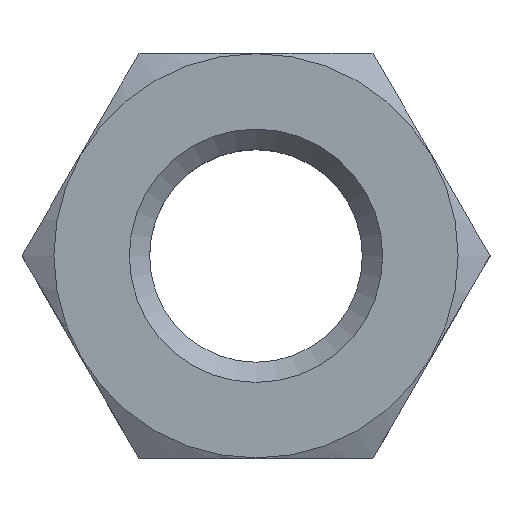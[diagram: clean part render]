
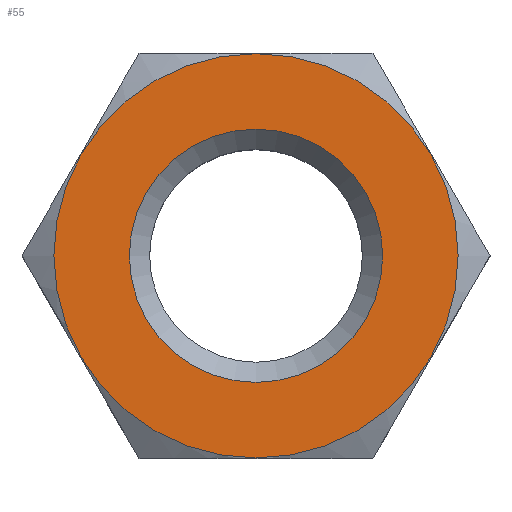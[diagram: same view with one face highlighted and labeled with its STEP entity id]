
A CAD part, top view. The second image highlights one B-rep face of the part: STEP entity #55.
In plain terms, the highlighted planar face has unit normal (0, 0, 1).
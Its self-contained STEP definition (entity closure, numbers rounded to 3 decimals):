
#55 = ADVANCED_FACE( '', ( #112, #113 ), #114, .F. );
#112 = FACE_BOUND( '', #165, .T. );
#113 = FACE_OUTER_BOUND( '', #166, .T. );
#114 = PLANE( '', #167 );
#165 = EDGE_LOOP( '', ( #252 ) );
#166 = EDGE_LOOP( '', ( #253 ) );
#167 = AXIS2_PLACEMENT_3D( '', #254, #255, #256 );
#252 = ORIENTED_EDGE( '', *, *, #281, .T. );
#253 = ORIENTED_EDGE( '', *, *, #305, .F. );
#254 = CARTESIAN_POINT( '', ( -6.928, 4., 4.7 ) );
#255 = DIRECTION( '', ( 0., 0., -1. ) );
#256 = DIRECTION( '', ( -1., 0., 0. ) );
#281 = EDGE_CURVE( '', #319, #319, #320, .T. );
#305 = EDGE_CURVE( '', #357, #357, #358, .T. );
#319 = VERTEX_POINT( '', #374 );
#320 = CIRCLE( '', #375, 2.5 );
#357 = VERTEX_POINT( '', #485 );
#358 = CIRCLE( '', #486, 3.99 );
#374 = CARTESIAN_POINT( '', ( -2.5, 0., 4.7 ) );
#375 = AXIS2_PLACEMENT_3D( '', #527, #528, #529 );
#485 = CARTESIAN_POINT( '', ( -3.99, 0., 4.7 ) );
#486 = AXIS2_PLACEMENT_3D( '', #543, #544, #545 );
#527 = CARTESIAN_POINT( '', ( 0., 0., 4.7 ) );
#528 = DIRECTION( '', ( 0., 0., -1. ) );
#529 = DIRECTION( '', ( -1., 0., 0. ) );
#543 = CARTESIAN_POINT( '', ( 0., 0., 4.7 ) );
#544 = DIRECTION( '', ( 0., 0., -1. ) );
#545 = DIRECTION( '', ( -1., 0., 0. ) );
